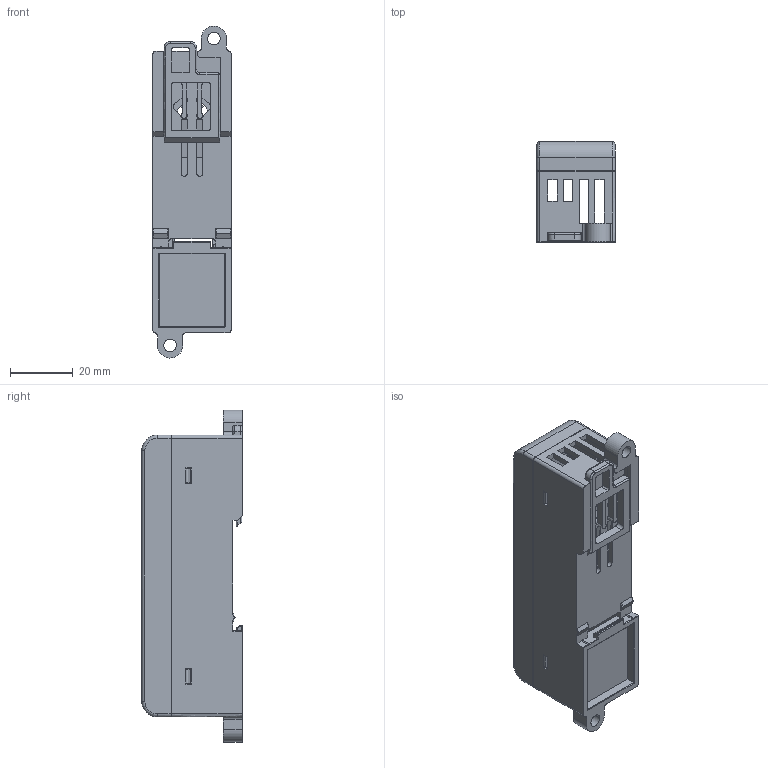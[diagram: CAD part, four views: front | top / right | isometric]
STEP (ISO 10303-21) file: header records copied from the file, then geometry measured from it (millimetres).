
FILE_DESCRIPTION(/* description */ (''),/* implementation_level */ '2;1');
FILE_NAME(/* name */ 'b1-CM25-slim-20210609',/* time_stamp */ '2021-12-10T04:19:14+08:00',/* author */ (''),/* organization */ (''),/* preprocessor_version */ 'ST-DEVELOPER v16.5',/* originating_system */ '',/* authorisation */ '');
FILE_SCHEMA (('AUTOMOTIVE_DESIGN'));
Length unit declared in the file: millimetre
Products named in the file (5): Document; B1-CM_DOWN_COVER_NEW_ASM; B1-CM_DOWN_COVER_NEW; DIN-RAIL-NEW; B1-CM25_UP_COVER
Assembly tree (4 placements, depth 3):
  Document
    B1-CM_DOWN_COVER_NEW_ASM
      B1-CM_DOWN_COVER_NEW
      DIN-RAIL-NEW
    B1-CM25_UP_COVER
Bounding box: 25 x 32.1 x 105.99 mm (x, y, z)
Volume: 19794.4 mm3; surface area: 24937.5 mm2
Topology: 3 solids, 3 shells, 595 faces, 1684 edges, 1084 vertices
Faces by surface type: plane 405, bspline 190
Entity records: 20945 total; most frequent: CARTESIAN_POINT 10187, ORIENTED_EDGE 3368, EDGE_CURVE 1684, B_SPLINE_CURVE_WITH_KNOTS 1370, VERTEX_POINT 1084, EDGE_LOOP 640, ADVANCED_FACE 595, FACE_OUTER_BOUND 595
